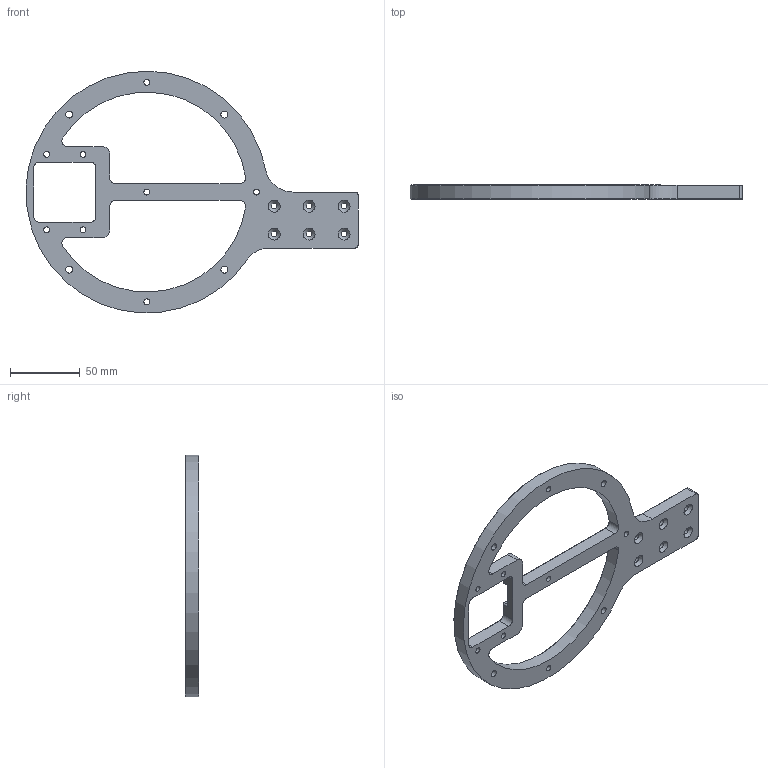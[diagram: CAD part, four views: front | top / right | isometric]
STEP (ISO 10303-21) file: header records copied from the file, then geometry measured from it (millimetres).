
FILE_DESCRIPTION(/* description */ (''),/* implementation_level */ '2;1');
FILE_NAME(/* name */ 'turntable-mount-final.step',/* time_stamp */ '2025-06-23T21:22:29-04:00',/* author */ (''),/* organization */ (''),/* preprocessor_version */ 'ST-DEVELOPER v20.1',/* originating_system */ 'Autodesk Translation Framework v14.10.0.0',/* authorisation */ '');
FILE_SCHEMA (('AUTOMOTIVE_DESIGN { 1 0 10303 214 3 1 1 }'));
Length unit declared in the file: millimetre
Products named in the file (1): turntable-mount
Bounding box: 237.4 x 10 x 172.75 mm (x, y, z)
Volume: 119143.7 mm3; surface area: 41146.3 mm2
Topology: 1 solids, 1 shells, 106 faces, 266 edges, 162 vertices
Faces by surface type: cylinder 41, plane 36, cone 29
Full cylindrical faces by diameter (mm): 4.2 x14, 5 x4
Entity records: 3277 total; most frequent: DIRECTION 591, CARTESIAN_POINT 535, ORIENTED_EDGE 532, EDGE_CURVE 266, AXIS2_PLACEMENT_3D 218, VERTEX_POINT 162, LINE 155, VECTOR 155
